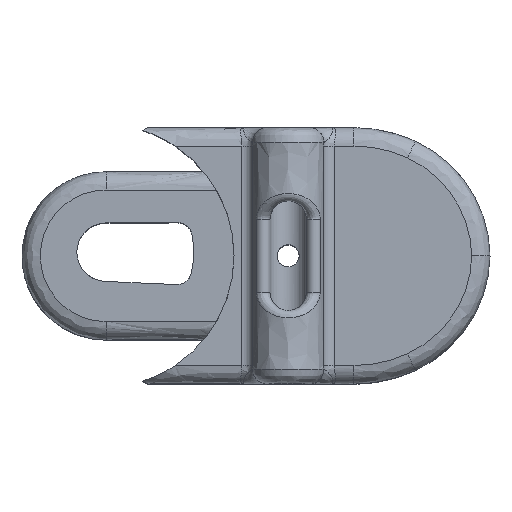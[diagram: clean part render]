
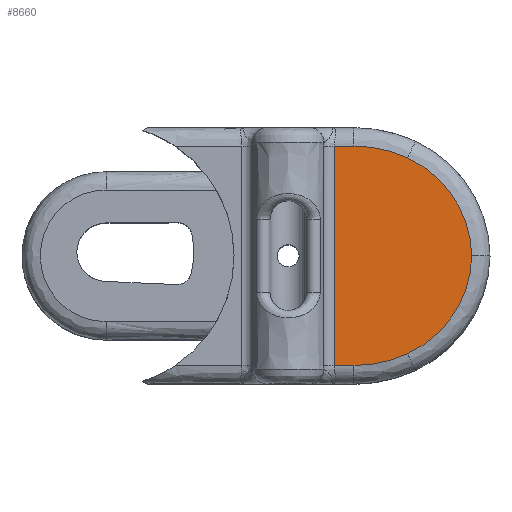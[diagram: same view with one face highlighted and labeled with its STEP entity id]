
A CAD part, top view. The second image highlights one B-rep face of the part: STEP entity #8660.
In plain terms, the highlighted free-form (B-spline) face has degree [1, 1] with [2, 2] control points.
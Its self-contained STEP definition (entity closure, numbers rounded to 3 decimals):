
#7344=CARTESIAN_POINT('',(18.205,-17.681,2.537));
#7345=VERTEX_POINT('',#7344);
#7353=CARTESIAN_POINT('',(18.205,12.319,2.537));
#7354=VERTEX_POINT('',#7353);
#7355=CARTESIAN_POINT('',(18.205,12.319,2.537));
#7356=DIRECTION('',(0.0,-1.0,0.0));
#7357=VECTOR('',#7356,30.);
#7358=LINE('',#7355,#7357);
#7359=EDGE_CURVE('',#7354,#7345,#7358,.T.);
#7793=CARTESIAN_POINT('',(20.88,12.319,2.537));
#7794=VERTEX_POINT('',#7793);
#7795=CARTESIAN_POINT('',(20.88,12.319,2.537));
#7796=DIRECTION('',(-1.0,0.0,0.0));
#7797=VECTOR('',#7796,2.675);
#7798=LINE('',#7795,#7797);
#7799=EDGE_CURVE('',#7794,#7354,#7798,.T.);
#8386=CARTESIAN_POINT('',(20.88,-17.681,2.537));
#8387=VERTEX_POINT('',#8386);
#8396=CARTESIAN_POINT('',(28.218,-16.068,2.537));
#8397=VERTEX_POINT('',#8396);
#8413=CARTESIAN_POINT('',(20.88,-0.181,2.537));
#8414=DIRECTION('',(0.0,0.0,1.));
#8415=DIRECTION('',(0.215,-0.977,0.0));
#8416=AXIS2_PLACEMENT_3D('',#8413,#8414,#8415);
#8417=CIRCLE('',#8416,17.5);
#8418=EDGE_CURVE('',#8387,#8397,#8417,.T.);
#8452=CARTESIAN_POINT('',(36.98,-2.681,2.537));
#8453=VERTEX_POINT('',#8452);
#8454=CARTESIAN_POINT('',(21.982,-2.426,2.537));
#8455=DIRECTION('',(0.0,0.0,1.0));
#8456=DIRECTION('',(0.837,-0.546,0.0));
#8457=AXIS2_PLACEMENT_3D('',#8454,#8455,#8456);
#8458=CIRCLE('',#8457,15.);
#8459=EDGE_CURVE('',#8397,#8453,#8458,.T.);
#8518=CARTESIAN_POINT('',(28.218,10.707,2.537));
#8519=VERTEX_POINT('',#8518);
#8520=CARTESIAN_POINT('',(21.982,-2.936,2.537));
#8521=DIRECTION('',(0.0,0.0,1.0));
#8522=DIRECTION('',(0.837,0.546,0.0));
#8523=AXIS2_PLACEMENT_3D('',#8520,#8521,#8522);
#8524=CIRCLE('',#8523,15.);
#8525=EDGE_CURVE('',#8453,#8519,#8524,.T.);
#8589=CARTESIAN_POINT('',(18.205,-17.681,2.537));
#8590=DIRECTION('',(1.0,0.0,0.0));
#8591=VECTOR('',#8590,2.675);
#8592=LINE('',#8589,#8591);
#8593=EDGE_CURVE('',#7345,#8387,#8592,.T.);
#8628=CARTESIAN_POINT('',(20.88,-5.181,2.537));
#8629=DIRECTION('',(0.0,0.0,1.0));
#8630=DIRECTION('',(0.215,0.977,0.0));
#8631=AXIS2_PLACEMENT_3D('',#8628,#8629,#8630);
#8632=CIRCLE('',#8631,17.5);
#8633=EDGE_CURVE('',#8519,#7794,#8632,.T.);
#8646=CARTESIAN_POINT('',(18.205,12.319,2.537));
#8647=CARTESIAN_POINT('',(36.98,12.319,2.537));
#8648=CARTESIAN_POINT('',(18.205,-17.681,2.537));
#8649=CARTESIAN_POINT('',(36.98,-17.681,2.537));
#8650=B_SPLINE_SURFACE_WITH_KNOTS('',1,1,((#8646,#8648),(#8647,#8649)),.UNSPECIFIED.,.F.,.F.,.U.,(2,2),(2,2),(0.0,18.775),(0.0,30.0),.UNSPECIFIED.);
#8651=ORIENTED_EDGE('',*,*,#7359,.T.);
#8652=ORIENTED_EDGE('',*,*,#8593,.T.);
#8653=ORIENTED_EDGE('',*,*,#8418,.T.);
#8654=ORIENTED_EDGE('',*,*,#8459,.T.);
#8655=ORIENTED_EDGE('',*,*,#8525,.T.);
#8656=ORIENTED_EDGE('',*,*,#8633,.T.);
#8657=ORIENTED_EDGE('',*,*,#7799,.T.);
#8658=EDGE_LOOP('',(#8651,#8652,#8653,#8654,#8655,#8656,#8657));
#8659=FACE_OUTER_BOUND('',#8658,.T.);
#8660=ADVANCED_FACE('',(#8659),#8650,.F.);
